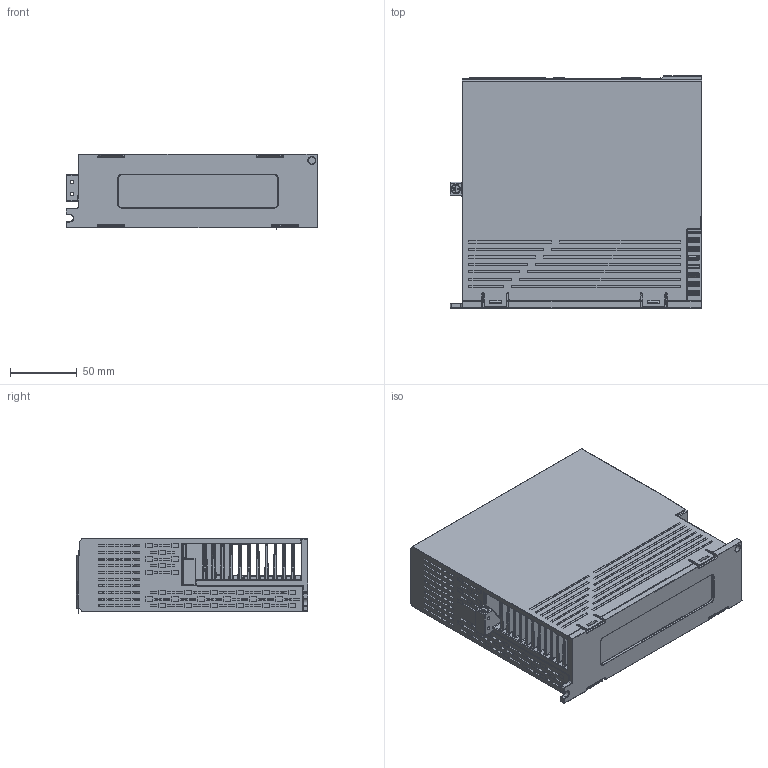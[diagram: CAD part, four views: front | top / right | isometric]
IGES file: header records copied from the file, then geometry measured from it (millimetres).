
Start section: SolidWorks IGES file using analytic representation for surfaces
Bounding box: 189 x 174 x 56.28 mm (x, y, z)
Surface area: 350664.2 mm2 (no closed solid volume)
Topology: 0 solids, 0 shells, 5524 faces, 34176 edges, 33800 vertices
Faces by surface type: bspline 3920, revolution 1604
